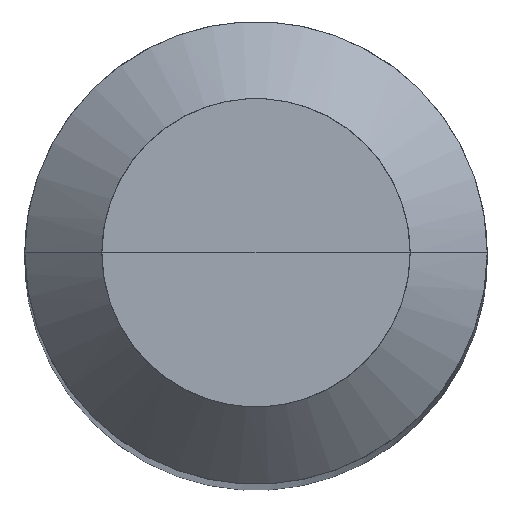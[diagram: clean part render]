
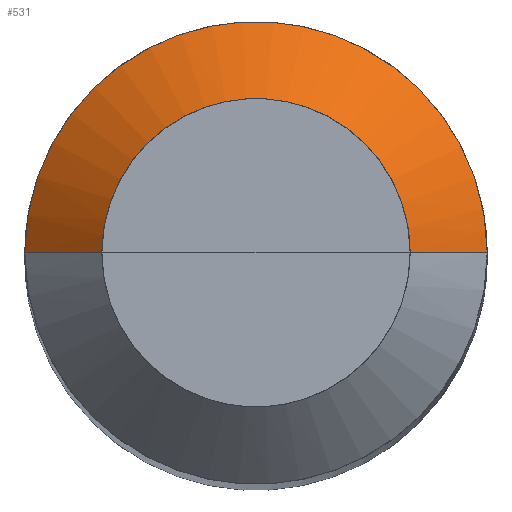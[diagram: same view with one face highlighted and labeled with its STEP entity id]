
A CAD part, top view. The second image highlights one B-rep face of the part: STEP entity #531.
In plain terms, the highlighted free-form (B-spline) face has degree [1, 2] with [2, 5] control points.
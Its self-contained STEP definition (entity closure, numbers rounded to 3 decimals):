
#254=CARTESIAN_POINT('',(3.0,0.0,46.201));
#255=CARTESIAN_POINT('',(3.0,3.0,46.201));
#256=CARTESIAN_POINT('',(0.0,3.0,46.201));
#257=CARTESIAN_POINT('',(-3.0,3.0,46.201));
#258=CARTESIAN_POINT('',(-3.0,0.0,46.201));
#259=CARTESIAN_POINT('',(2.0,0.0,47.201));
#260=CARTESIAN_POINT('',(2.0,2.0,47.201));
#261=CARTESIAN_POINT('',(0.0,2.0,47.201));
#262=CARTESIAN_POINT('',(-2.0,2.0,47.201));
#263=CARTESIAN_POINT('',(-2.0,0.0,47.201));
#512=(
BOUNDED_SURFACE()
B_SPLINE_SURFACE(1,2,(
(#254,#255,#256,#257,#258),
(#259,#260,#261,#262,#263)
), .UNSPECIFIED.,.F.,.F.,.F.)
B_SPLINE_SURFACE_WITH_KNOTS((2,2),(3,2,3),(
0.0,1.0),(
0.0,0.5,1.0), .UNSPECIFIED.)
GEOMETRIC_REPRESENTATION_ITEM()
RATIONAL_B_SPLINE_SURFACE(((1.0,0.707,1.0,0.707,1.0),
(1.0,0.707,1.0,0.707,1.0)
))
REPRESENTATION_ITEM('')
SURFACE()
);
#513=(
BOUNDED_CURVE()
B_SPLINE_CURVE(2,(#258,#257,#256,#255,#254),.UNSPECIFIED.,.F.,.F.)
B_SPLINE_CURVE_WITH_KNOTS((3,2,3),
(0.0,0.5,1.0),.UNSPECIFIED.)
CURVE()
GEOMETRIC_REPRESENTATION_ITEM()
RATIONAL_B_SPLINE_CURVE((1.0,0.707,1.0,0.707,1.0))
REPRESENTATION_ITEM('')
);
#514=(
BOUNDED_CURVE()
B_SPLINE_CURVE(1,(#254,#259),.UNSPECIFIED.,.F.,.F.)
B_SPLINE_CURVE_WITH_KNOTS((2,2),
(0.0,1.0),.UNSPECIFIED.)
CURVE()
GEOMETRIC_REPRESENTATION_ITEM()
RATIONAL_B_SPLINE_CURVE((1.0,1.0))
REPRESENTATION_ITEM('')
);
#515=(
BOUNDED_CURVE()
B_SPLINE_CURVE(2,(#259,#260,#261,#262,#263),.UNSPECIFIED.,.F.,.F.)
B_SPLINE_CURVE_WITH_KNOTS((3,2,3),
(0.0,0.5,1.0),.UNSPECIFIED.)
CURVE()
GEOMETRIC_REPRESENTATION_ITEM()
RATIONAL_B_SPLINE_CURVE((1.0,0.707,1.0,0.707,1.0))
REPRESENTATION_ITEM('')
);
#516=(
BOUNDED_CURVE()
B_SPLINE_CURVE(1,(#263,#258),.UNSPECIFIED.,.F.,.F.)
B_SPLINE_CURVE_WITH_KNOTS((2,2),
(0.0,1.0),.UNSPECIFIED.)
CURVE()
GEOMETRIC_REPRESENTATION_ITEM()
RATIONAL_B_SPLINE_CURVE((1.0,1.0))
REPRESENTATION_ITEM('')
);
#517=VERTEX_POINT('',#254);
#518=VERTEX_POINT('',#258);
#519=VERTEX_POINT('',#259);
#520=VERTEX_POINT('',#263);
#521=EDGE_CURVE('',#518,#517,#513,.T.);
#522=EDGE_CURVE('',#517,#519,#514,.T.);
#523=EDGE_CURVE('',#519,#520,#515,.T.);
#524=EDGE_CURVE('',#520,#518,#516,.T.);
#525=ORIENTED_EDGE('',*,*,#521,.T.);
#526=ORIENTED_EDGE('',*,*,#522,.T.);
#527=ORIENTED_EDGE('',*,*,#523,.T.);
#528=ORIENTED_EDGE('',*,*,#524,.T.);
#529=EDGE_LOOP('',(#525,#526,#527,#528));
#530=FACE_OUTER_BOUND('',#529,.T.);
#531=ADVANCED_FACE('',(#530),#512,.T.);
